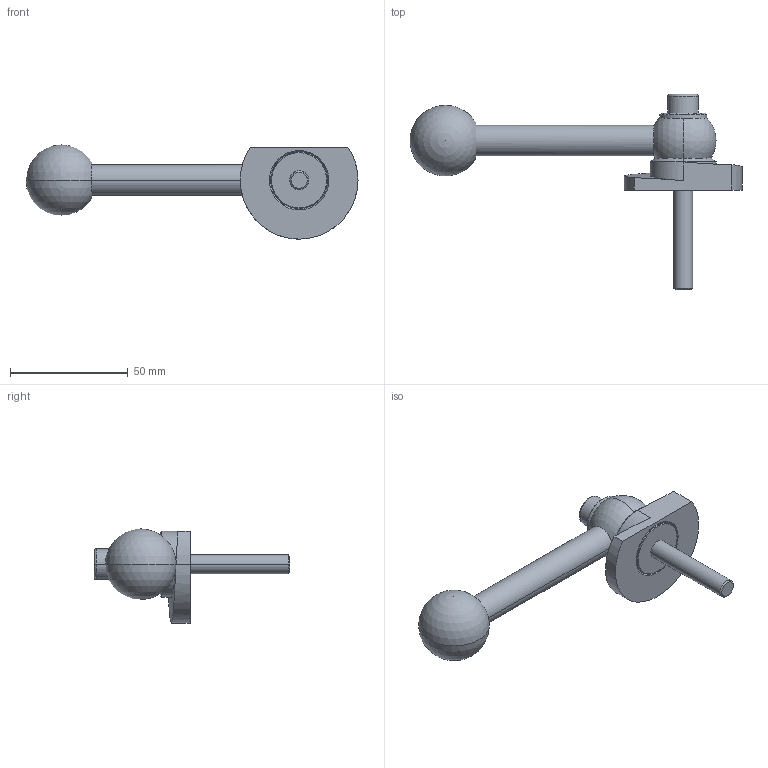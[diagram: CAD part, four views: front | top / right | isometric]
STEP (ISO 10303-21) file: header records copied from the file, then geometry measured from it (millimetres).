
FILE_DESCRIPTION (( 'STEP AP214' ), '1' );
FILE_NAME ('918.1-50-GVS-L-42.step', '2024-05-15T13:01:35', ( '' ), ( '' ), 'SwSTEP 2.0', 'SolidWorks 2022', '' );
FILE_SCHEMA (( 'AUTOMOTIVE_DESIGN' ));
Length unit declared in the file: millimetre
Products named in the file (1): 918.1-50-GVS-L-42
Bounding box: 141 x 83 x 40 mm (x, y, z)
Volume: 53096 mm3; surface area: 16399.8 mm2
Topology: 1 solids, 1 shells, 62 faces, 140 edges, 88 vertices
Faces by surface type: plane 20, cylinder 19, cone 14, sphere 4, bspline 3, torus 2
Entity records: 2001 total; most frequent: CARTESIAN_POINT 613, DIRECTION 305, ORIENTED_EDGE 260, EDGE_CURVE 130, AXIS2_PLACEMENT_3D 125, VERTEX_POINT 82, EDGE_LOOP 74, CIRCLE 65
